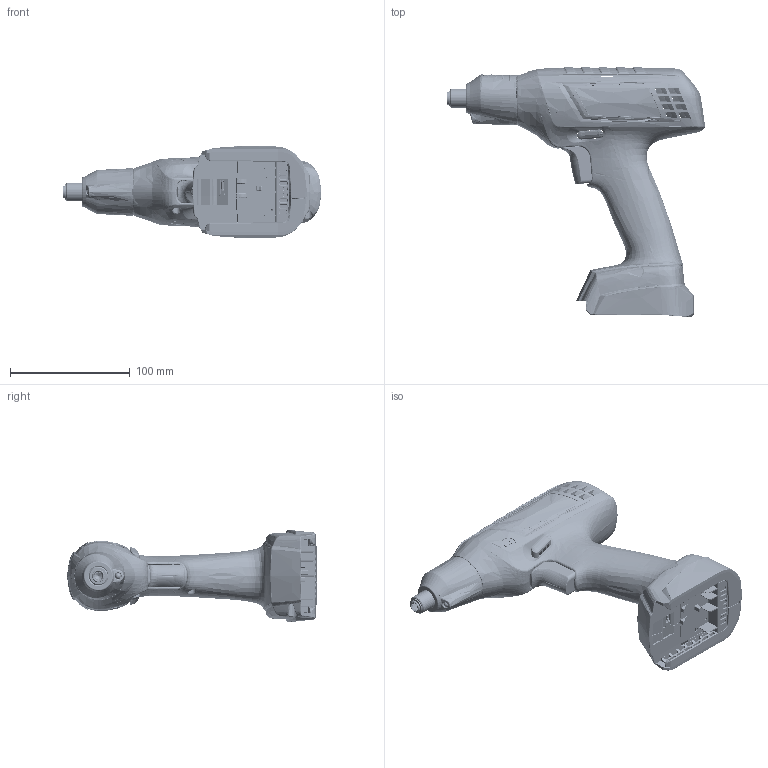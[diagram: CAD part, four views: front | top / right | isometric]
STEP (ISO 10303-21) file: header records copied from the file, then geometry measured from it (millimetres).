
FILE_DESCRIPTION((''),'2;1');
FILE_NAME('3602D94400_ASM','2013-06-20T',('lem2mt'),(''),'PRO/ENGINEER BY PARAMETRIC TECHNOLOGY CORPORATION, 2011490','PRO/ENGINEER BY PARAMETRIC TECHNOLOGY CORPORATION, 2011490','');
FILE_SCHEMA(('AUTOMOTIVE_DESIGN_CC2 { 1 2 10303 214 -1 1 5 2 }'));
Products named in the file (30): 3602D94400_SKEL01; 3605105046_100; 3605105046_200; 3602D94400_10_ASM; 3604460132; 3603124023-1; 3600224006; 3600499003; 3607031535_ASM; 3602D94400_80_24; 3602D94400_80_25; 3602D94400_80_28; 3602D94400_80_26; 3602D94400_80_23_ASM; 3602D94400_80_ASM; 1607502625_SKEL0001; 1607502625_01; 1607502625_02; 1607502625_ASM; 3602D94400_90_ASM; 3602D94400_80_40; 3602D94400_80_29_ASM; 1607502627_SKEL0001; 1607502627_ASM; 1607502626_DUMMY; 3601099004; 3601923030; 3600106006; 2603490018_DUMMY_01; 3602D94400_ASM
Assembly tree (39 placements, depth 4):
  3602D94400_ASM
    3602D94400_SKEL01
    3602D94400_10_ASM
      3605105046_100
      3605105046_200
    3604460132  x2
    3607031535_ASM
      3603124023-1
      3600224006
      3600499003
    3602D94400_80_ASM
      3602D94400_80_23_ASM
        3602D94400_80_24
        3602D94400_80_25
        3602D94400_80_28
        3602D94400_80_26  x2
    3602D94400_90_ASM
      1607502625_ASM
        1607502625_SKEL0001
        1607502625_01
        1607502625_02
    3602D94400_80_29_ASM
      3602D94400_80_40
    1607502627_ASM
      1607502627_SKEL0001
    1607502626_DUMMY
    3601099004
    3601923030
    3600106006
    2603490018_DUMMY_01  x9
Bounding box: 216.24 x 209.05 x 77.2 mm (x, y, z)
Volume: 237112 mm3; surface area: 203866.4 mm2
Topology: 28 solids, 28 shells, 7668 faces, 19902 edges, 12329 vertices
Faces by surface type: bspline 2860, plane 2527, cylinder 1406, cone 370, sphere 225, extrusion 164, torus 116
Entity records: 666549 total; most frequent: CARTESIAN_POINT 422245, ORIENTED_EDGE 37088, PRESENTATION_STYLE_ASSIGNMENT 24143, DIRECTION 21719, STYLED_ITEM 18702, CURVE_STYLE 18684, EDGE_CURVE 18544, VERTEX_POINT 11534
